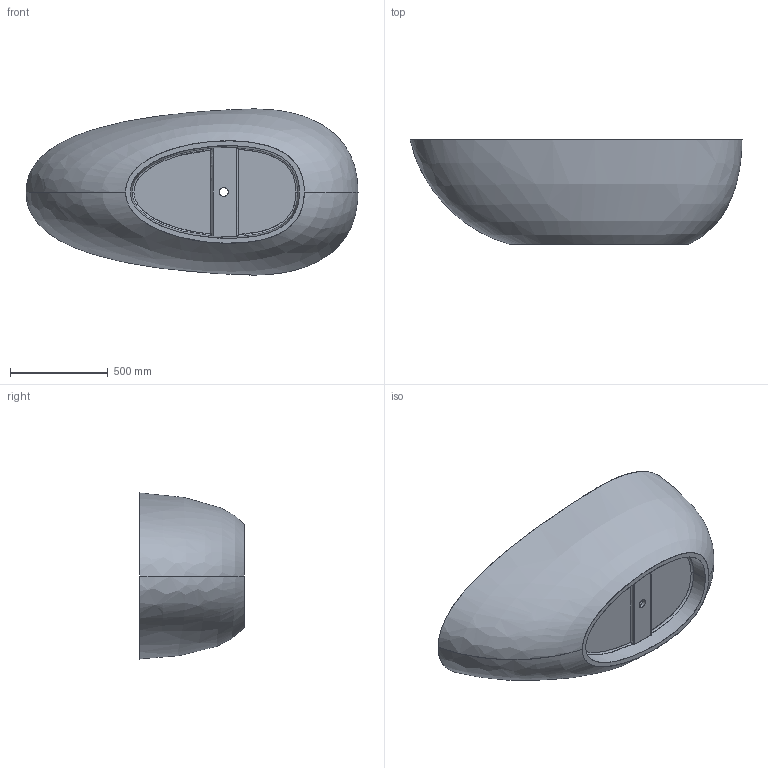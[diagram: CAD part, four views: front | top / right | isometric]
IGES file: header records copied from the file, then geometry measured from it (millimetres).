
Start section: SolidWorks IGES file using analytic representation for surfaces
Global section: file name: C:\Documents and Settings\Administrator\袤醱\igs跡宒\06.IGS; native system: SolidWorks 2010; preprocessor: SolidWorks 2010; author: Administrator; date: 100728.103243; units: millimetre
Bounding box: 1700 x 535 x 850.32 mm (x, y, z)
Surface area: 5003100.3 mm2 (no closed solid volume)
Topology: 0 solids, 0 shells, 31 faces, 963 edges, 963 vertices
Faces by surface type: bspline 23, revolution 8
